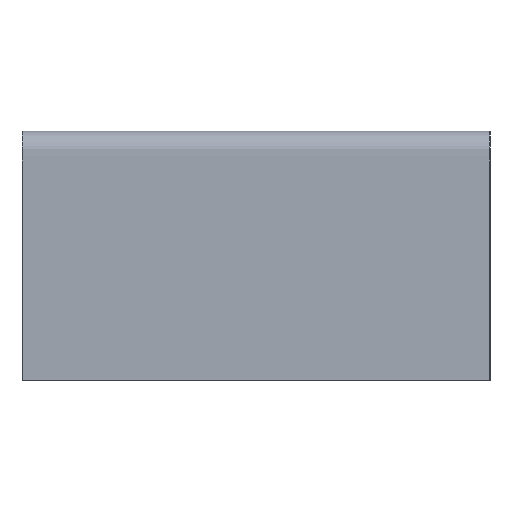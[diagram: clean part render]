
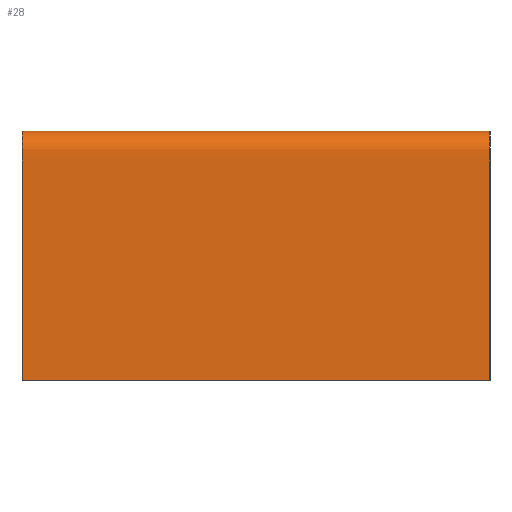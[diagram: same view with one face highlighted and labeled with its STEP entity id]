
A CAD part, left-side view. The second image highlights one B-rep face of the part: STEP entity #28.
In plain terms, the highlighted free-form (B-spline) face has degree [1, 2] with [2, 11] control points.
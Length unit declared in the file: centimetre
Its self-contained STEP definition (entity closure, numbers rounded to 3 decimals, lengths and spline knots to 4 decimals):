
#28=ADVANCED_FACE($,(#69),#467,.T.);
#69=FACE_OUTER_BOUND($,#110,.T.);
#110=EDGE_LOOP($,(#165,#166,#167,#168));
#165=ORIENTED_EDGE($,*,*,#326,.T.);
#166=ORIENTED_EDGE($,*,*,#333,.T.);
#167=ORIENTED_EDGE($,*,*,#330,.F.);
#168=ORIENTED_EDGE($,*,*,#334,.F.);
#326=EDGE_CURVE($,#412,#411,#591,.T.);
#330=EDGE_CURVE($,#416,#415,#593,.T.);
#333=EDGE_CURVE($,#411,#415,#513,.T.);
#334=EDGE_CURVE($,#412,#416,#514,.T.);
#411=VERTEX_POINT($,#881);
#412=VERTEX_POINT($,#882);
#415=VERTEX_POINT($,#885);
#416=VERTEX_POINT($,#886);
#467=(
BOUNDED_SURFACE()
B_SPLINE_SURFACE(1,2,((#841,#842,#843,#844,#845,#846,#847,#848,#849,#850,
#851),(#852,#853,#854,#855,#856,#857,#858,#859,#860,#861,#862)),.UNSPECIFIED.,
.F.,.F.,.F.)
B_SPLINE_SURFACE_WITH_KNOTS((2,2),(3,2,2,2,2,3),(0.,60.),(-325.3686,
-296.0686,-293.7124,-179.1124,-176.7562,
-147.4562),.UNSPECIFIED.)
GEOMETRIC_REPRESENTATION_ITEM()
RATIONAL_B_SPLINE_SURFACE(((1.,1.,1.,0.707,1.,1.,1.,0.707,
1.,1.,1.),(1.,1.,1.,0.707,1.,1.,1.,0.707,1.,1.,1.)))
REPRESENTATION_ITEM($)
SURFACE()
);
#513=B_SPLINE_CURVE_WITH_KNOTS($,1,(#822,#823),.UNSPECIFIED.,.F.,.F.,(2,
2),(0.,60.),.UNSPECIFIED.);
#514=B_SPLINE_CURVE_WITH_KNOTS($,1,(#824,#825),.UNSPECIFIED.,.F.,.F.,(2,
2),(0.,60.),.UNSPECIFIED.);
#591=(
BOUNDED_CURVE()
B_SPLINE_CURVE(2,(#787,#788,#789,#790,#791,#792,#793,#794,#795,#796,#797),
.UNSPECIFIED.,.F.,.F.)
B_SPLINE_CURVE_WITH_KNOTS((3,2,2,2,2,3),(147.4562,176.7562,
179.1124,293.7124,296.0686,325.3686),.UNSPECIFIED.)
CURVE()
GEOMETRIC_REPRESENTATION_ITEM()
RATIONAL_B_SPLINE_CURVE((1.,1.,1.,0.707,1.,1.,1.,0.707,
1.,1.,1.))
REPRESENTATION_ITEM($)
);
#593=(
BOUNDED_CURVE()
B_SPLINE_CURVE(2,(#807,#808,#809,#810,#811,#812,#813,#814,#815,#816,#817),
.UNSPECIFIED.,.F.,.F.)
B_SPLINE_CURVE_WITH_KNOTS((3,2,2,2,2,3),(147.4562,176.7562,
179.1124,293.7124,296.0686,325.3686),.UNSPECIFIED.)
CURVE()
GEOMETRIC_REPRESENTATION_ITEM()
RATIONAL_B_SPLINE_CURVE((1.,1.,1.,0.707,1.,1.,1.,0.707,
1.,1.,1.))
REPRESENTATION_ITEM($)
);
#787=CARTESIAN_POINT($,(0.,0.,0.));
#788=CARTESIAN_POINT($,(0.,0.,14.65));
#789=CARTESIAN_POINT($,(0.,0.,29.3));
#790=CARTESIAN_POINT($,(0.,0.,32.));
#791=CARTESIAN_POINT($,(2.7,0.,32.));
#792=CARTESIAN_POINT($,(60.,0.,32.));
#793=CARTESIAN_POINT($,(117.3,0.,32.));
#794=CARTESIAN_POINT($,(120.,0.,32.));
#795=CARTESIAN_POINT($,(120.,0.,29.3));
#796=CARTESIAN_POINT($,(120.,0.,14.65));
#797=CARTESIAN_POINT($,(120.,0.,0.));
#807=CARTESIAN_POINT($,(0.,60.,0.));
#808=CARTESIAN_POINT($,(0.,60.,14.65));
#809=CARTESIAN_POINT($,(0.,60.,29.3));
#810=CARTESIAN_POINT($,(0.,60.,32.));
#811=CARTESIAN_POINT($,(2.7,60.,32.));
#812=CARTESIAN_POINT($,(60.,60.,32.));
#813=CARTESIAN_POINT($,(117.3,60.,32.));
#814=CARTESIAN_POINT($,(120.,60.,32.));
#815=CARTESIAN_POINT($,(120.,60.,29.3));
#816=CARTESIAN_POINT($,(120.,60.,14.65));
#817=CARTESIAN_POINT($,(120.,60.,0.));
#822=CARTESIAN_POINT($,(120.,0.,0.));
#823=CARTESIAN_POINT($,(120.,60.,0.));
#824=CARTESIAN_POINT($,(0.,0.,0.));
#825=CARTESIAN_POINT($,(0.,60.,0.));
#841=CARTESIAN_POINT($,(120.,0.,0.));
#842=CARTESIAN_POINT($,(120.,0.,14.65));
#843=CARTESIAN_POINT($,(120.,0.,29.3));
#844=CARTESIAN_POINT($,(120.,0.,32.));
#845=CARTESIAN_POINT($,(117.3,0.,32.));
#846=CARTESIAN_POINT($,(60.,0.,32.));
#847=CARTESIAN_POINT($,(2.7,0.,32.));
#848=CARTESIAN_POINT($,(0.,0.,32.));
#849=CARTESIAN_POINT($,(0.,0.,29.3));
#850=CARTESIAN_POINT($,(0.,0.,14.65));
#851=CARTESIAN_POINT($,(0.,0.,0.));
#852=CARTESIAN_POINT($,(120.,60.,0.));
#853=CARTESIAN_POINT($,(120.,60.,14.65));
#854=CARTESIAN_POINT($,(120.,60.,29.3));
#855=CARTESIAN_POINT($,(120.,60.,32.));
#856=CARTESIAN_POINT($,(117.3,60.,32.));
#857=CARTESIAN_POINT($,(60.,60.,32.));
#858=CARTESIAN_POINT($,(2.7,60.,32.));
#859=CARTESIAN_POINT($,(0.,60.,32.));
#860=CARTESIAN_POINT($,(0.,60.,29.3));
#861=CARTESIAN_POINT($,(0.,60.,14.65));
#862=CARTESIAN_POINT($,(0.,60.,0.));
#881=CARTESIAN_POINT($,(120.,0.,0.));
#882=CARTESIAN_POINT($,(0.,0.,0.));
#885=CARTESIAN_POINT($,(120.,60.,0.));
#886=CARTESIAN_POINT($,(0.,60.,0.));
